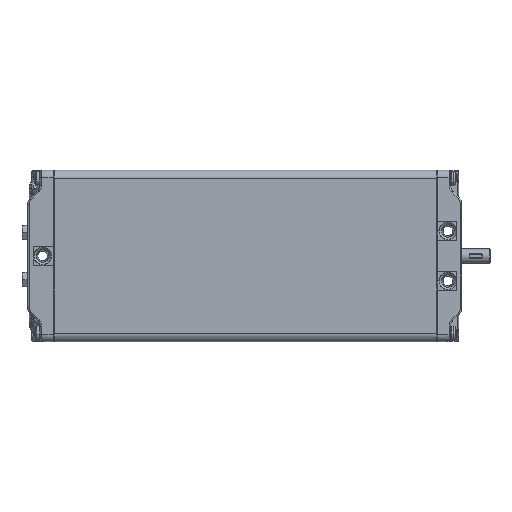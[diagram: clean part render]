
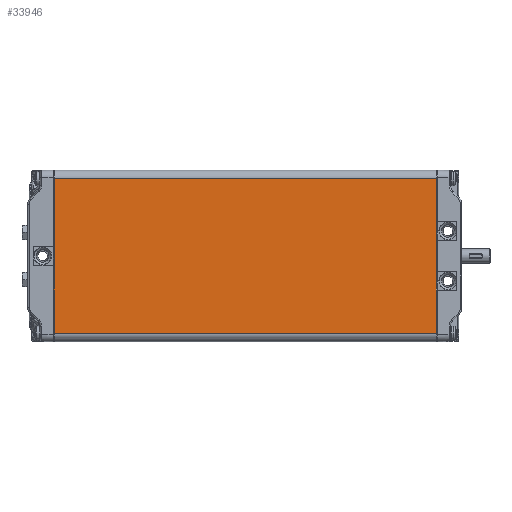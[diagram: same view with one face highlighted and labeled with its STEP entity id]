
A CAD part, top view. The second image highlights one B-rep face of the part: STEP entity #33946.
In plain terms, the highlighted planar face has unit normal (0, 0, 1).
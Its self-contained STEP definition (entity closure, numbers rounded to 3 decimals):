
#3533=LINE('',#72370,#4818);
#3534=LINE('',#72373,#4819);
#3535=LINE('',#72375,#4820);
#3536=LINE('',#72377,#4821);
#4818=VECTOR('',#41196,1000.);
#4819=VECTOR('',#41197,1000.);
#4820=VECTOR('',#41198,1000.);
#4821=VECTOR('',#41199,1000.);
#10122=ORIENTED_EDGE('',*,*,#16201,.T.);
#10123=ORIENTED_EDGE('',*,*,#16202,.T.);
#10124=ORIENTED_EDGE('',*,*,#16203,.T.);
#10125=ORIENTED_EDGE('',*,*,#16204,.T.);
#16201=EDGE_CURVE('',#19467,#19468,#3533,.F.);
#16202=EDGE_CURVE('',#19468,#19469,#3534,.T.);
#16203=EDGE_CURVE('',#19469,#19470,#3535,.T.);
#16204=EDGE_CURVE('',#19470,#19467,#3536,.F.);
#19467=VERTEX_POINT('',#72371);
#19468=VERTEX_POINT('',#72372);
#19469=VERTEX_POINT('',#72374);
#19470=VERTEX_POINT('',#72376);
#22971=EDGE_LOOP('',(#10122,#10123,#10124,#10125));
#24967=FACE_BOUND('',#22971,.T.);
#26113=PLANE('',#36219);
#33946=ADVANCED_FACE('',(#24967),#26113,.T.);
#36219=AXIS2_PLACEMENT_3D('',#72369,#41194,#41195);
#41194=DIRECTION('',(0.,0.,1.));
#41195=DIRECTION('',(1.,0.,0.));
#41196=DIRECTION('',(0.,-1.,0.));
#41197=DIRECTION('',(-1.,0.,0.));
#41198=DIRECTION('',(0.,-1.,0.));
#41199=DIRECTION('',(-1.,0.,0.));
#72369=CARTESIAN_POINT('',(60.,268.5,30.));
#72370=CARTESIAN_POINT('',(54.,268.5,30.));
#72371=CARTESIAN_POINT('',(54.,0.5,30.));
#72372=CARTESIAN_POINT('',(54.,268.,30.));
#72373=CARTESIAN_POINT('',(60.,268.,30.));
#72374=CARTESIAN_POINT('',(-54.,268.,30.));
#72375=CARTESIAN_POINT('',(-54.,268.5,30.));
#72376=CARTESIAN_POINT('',(-54.,0.5,30.));
#72377=CARTESIAN_POINT('',(54.,0.5,30.));
